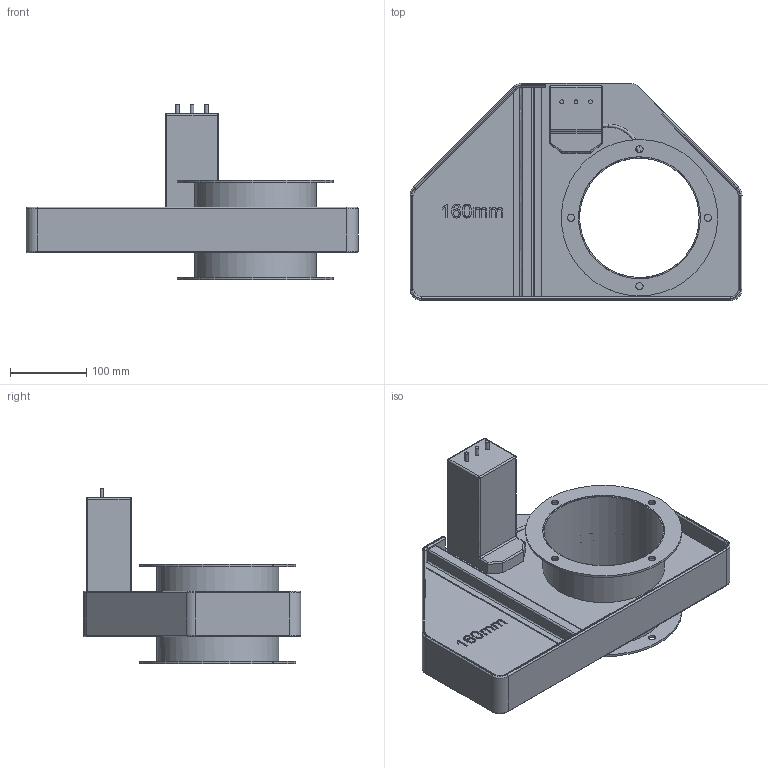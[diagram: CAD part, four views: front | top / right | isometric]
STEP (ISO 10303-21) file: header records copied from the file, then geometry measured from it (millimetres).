
FILE_DESCRIPTION( ('This file contains a STEP AP42 implementation' ,'as created by ZW3D STEP Interface translator.') ,'2;1' );
FILE_NAME( '3D Model-HO160mm Body with drive.stp' ,'20 713. 85553', (''), ('ZWCAD Software Co.'), 'Version 1.0', 'ZW3D to STEP translator', '' );
FILE_SCHEMA(('AUTOMOTIVE_DESIGN'));
Length unit declared in the file: millimetre
Products named in the file (1): 0
Bounding box: 436.63 x 285.67 x 230.3 mm (x, y, z)
Volume: 2317431.5 mm3; surface area: 537702 mm2
Topology: 4 solids, 4 shells, 729 faces, 1908 edges, 1265 vertices
Faces by surface type: bspline 729
Entity records: 23938 total; most frequent: CARTESIAN_POINT 11699, ORIENTED_EDGE 3768, EDGE_CURVE 1884, B_SPLINE_CURVE_WITH_KNOTS 1605, VERTEX_POINT 1226, EDGE_LOOP 814, FACE_OUTER_BOUND 729, ADVANCED_FACE 729
